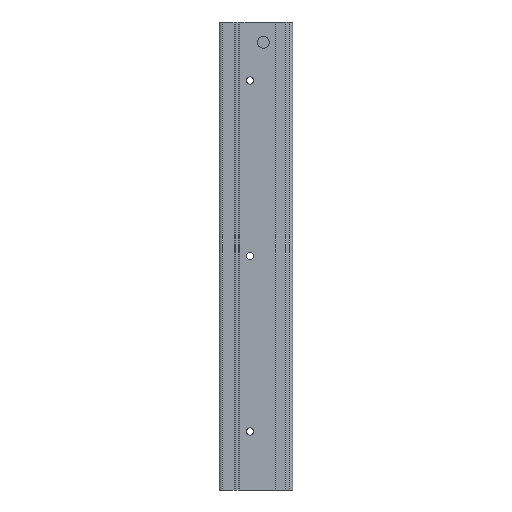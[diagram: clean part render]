
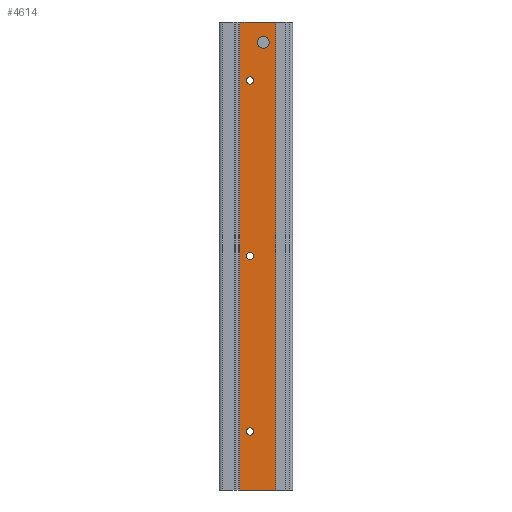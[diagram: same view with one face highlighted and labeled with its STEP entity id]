
A CAD part, left-side view. The second image highlights one B-rep face of the part: STEP entity #4614.
In plain terms, the highlighted planar face has unit normal (-1, 0, 0).
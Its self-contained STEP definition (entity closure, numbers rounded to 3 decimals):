
#471 = LINE ( 'NONE', #13522, #35056 ) ;
#664 = CARTESIAN_POINT ( 'NONE',  ( -35., 14.5, -1.25 ) ) ;
#701 = ORIENTED_EDGE ( 'NONE', *, *, #22824, .F. ) ;
#1092 = EDGE_CURVE ( 'NONE', #20267, #35663, #31165, .T. ) ;
#1887 = DIRECTION ( 'NONE',  ( 0., 0., 1. ) ) ;
#2100 = EDGE_LOOP ( 'NONE', ( #701, #10483, #7663, #7106 ) ) ;
#2418 = FACE_BOUND ( 'NONE', #10354, .T. ) ;
#2432 = DIRECTION ( 'NONE',  ( -1., 0., 0. ) ) ;
#2931 = CARTESIAN_POINT ( 'NONE',  ( -35., 0., -80. ) ) ;
#3332 = EDGE_CURVE ( 'NONE', #33931, #19867, #20458, .T. ) ;
#3597 = ORIENTED_EDGE ( 'NONE', *, *, #1092, .F. ) ;
#3890 = PLANE ( 'NONE',  #33195 ) ;
#4566 = DIRECTION ( 'NONE',  ( -1., 0., 0. ) ) ;
#4614 = ADVANCED_FACE ( 'NONE', ( #17292, #24775, #2418, #31347, #23889 ), #3890, .T. ) ;
#5747 = VERTEX_POINT ( 'NONE', #20240 ) ;
#6825 = DIRECTION ( 'NONE',  ( -1., 0., 0. ) ) ;
#7106 = ORIENTED_EDGE ( 'NONE', *, *, #34855, .T. ) ;
#7113 = ORIENTED_EDGE ( 'NONE', *, *, #20938, .F. ) ;
#7443 = CARTESIAN_POINT ( 'NONE',  ( -35., 14.5, -60. ) ) ;
#7524 = CARTESIAN_POINT ( 'NONE',  ( -35., 10., 73. ) ) ;
#7652 = AXIS2_PLACEMENT_3D ( 'NONE', #11168, #30787, #13965 ) ;
#7663 = ORIENTED_EDGE ( 'NONE', *, *, #23623, .T. ) ;
#8358 = CARTESIAN_POINT ( 'NONE',  ( -35., 18., 80. ) ) ;
#8442 = EDGE_LOOP ( 'NONE', ( #13089, #19303 ) ) ;
#9086 = CARTESIAN_POINT ( 'NONE',  ( -35., 10., 75. ) ) ;
#9262 = VECTOR ( 'NONE', #22512, 1000. ) ;
#9628 = CARTESIAN_POINT ( 'NONE',  ( -35., 14.5, 61.25 ) ) ;
#10267 = DIRECTION ( 'NONE',  ( 0., 0., 1. ) ) ;
#10341 = DIRECTION ( 'NONE',  ( 0., 0., 1. ) ) ;
#10354 = EDGE_LOOP ( 'NONE', ( #17208, #3597 ) ) ;
#10483 = ORIENTED_EDGE ( 'NONE', *, *, #33543, .F. ) ;
#10722 = AXIS2_PLACEMENT_3D ( 'NONE', #7524, #27154, #10341 ) ;
#10758 = EDGE_CURVE ( 'NONE', #26982, #5747, #11031, .T. ) ;
#10933 = VERTEX_POINT ( 'NONE', #31581 ) ;
#11031 = CIRCLE ( 'NONE', #10722, 2. ) ;
#11168 = CARTESIAN_POINT ( 'NONE',  ( -35., 14.5, 0. ) ) ;
#11194 = CARTESIAN_POINT ( 'NONE',  ( -35., 18., -80. ) ) ;
#11271 = LINE ( 'NONE', #8358, #16971 ) ;
#12311 = VERTEX_POINT ( 'NONE', #33074 ) ;
#12721 = CARTESIAN_POINT ( 'NONE',  ( -35., 5.8, 80. ) ) ;
#12958 = AXIS2_PLACEMENT_3D ( 'NONE', #19170, #2432, #22010 ) ;
#13089 = ORIENTED_EDGE ( 'NONE', *, *, #18325, .F. ) ;
#13522 = CARTESIAN_POINT ( 'NONE',  ( -35., 0., 80. ) ) ;
#13629 = VERTEX_POINT ( 'NONE', #28564 ) ;
#13965 = DIRECTION ( 'NONE',  ( 0., 0., 1. ) ) ;
#14221 = DIRECTION ( 'NONE',  ( -1., 0., 0. ) ) ;
#14417 = VECTOR ( 'NONE', #18348, 1000. ) ;
#15547 = AXIS2_PLACEMENT_3D ( 'NONE', #21309, #4566, #24143 ) ;
#15729 = ORIENTED_EDGE ( 'NONE', *, *, #3332, .F. ) ;
#16186 = CARTESIAN_POINT ( 'NONE',  ( -35., 10., 73. ) ) ;
#16289 = VERTEX_POINT ( 'NONE', #30480 ) ;
#16701 = LINE ( 'NONE', #2931, #9262 ) ;
#16971 = VECTOR ( 'NONE', #19592, 1000. ) ;
#17208 = ORIENTED_EDGE ( 'NONE', *, *, #29270, .F. ) ;
#17292 = FACE_BOUND ( 'NONE', #8442, .T. ) ;
#18325 = EDGE_CURVE ( 'NONE', #5747, #26982, #30169, .T. ) ;
#18348 = DIRECTION ( 'NONE',  ( 0., 0., -1. ) ) ;
#18619 = DIRECTION ( 'NONE',  ( -1., 0., 0. ) ) ;
#18987 = DIRECTION ( 'NONE',  ( 0., 0., 1. ) ) ;
#19170 = CARTESIAN_POINT ( 'NONE',  ( -35., 14.5, 60. ) ) ;
#19303 = ORIENTED_EDGE ( 'NONE', *, *, #10758, .F. ) ;
#19592 = DIRECTION ( 'NONE',  ( 0., 0., -1. ) ) ;
#19867 = VERTEX_POINT ( 'NONE', #32130 ) ;
#20240 = CARTESIAN_POINT ( 'NONE',  ( -35., 10., 71. ) ) ;
#20267 = VERTEX_POINT ( 'NONE', #664 ) ;
#20458 = CIRCLE ( 'NONE', #12958, 1.25 ) ;
#20938 = EDGE_CURVE ( 'NONE', #10933, #16289, #22557, .T. ) ;
#21175 = ORIENTED_EDGE ( 'NONE', *, *, #26648, .F. ) ;
#21309 = CARTESIAN_POINT ( 'NONE',  ( -35., 14.5, 60. ) ) ;
#22010 = DIRECTION ( 'NONE',  ( 0., 0., 1. ) ) ;
#22111 = CIRCLE ( 'NONE', #29789, 1.25 ) ;
#22512 = DIRECTION ( 'NONE',  ( 0., 1., 0. ) ) ;
#22557 = CIRCLE ( 'NONE', #27820, 1.25 ) ;
#22824 = EDGE_CURVE ( 'NONE', #13629, #34250, #16701, .T. ) ;
#23403 = EDGE_LOOP ( 'NONE', ( #21175, #7113 ) ) ;
#23591 = CARTESIAN_POINT ( 'NONE',  ( -35., 0., 80. ) ) ;
#23623 = EDGE_CURVE ( 'NONE', #12311, #32699, #471, .T. ) ;
#23889 = FACE_OUTER_BOUND ( 'NONE', #2100, .T. ) ;
#24143 = DIRECTION ( 'NONE',  ( 0., 0., 1. ) ) ;
#24469 = AXIS2_PLACEMENT_3D ( 'NONE', #35431, #18619, #1887 ) ;
#24775 = FACE_BOUND ( 'NONE', #23403, .T. ) ;
#25426 = CIRCLE ( 'NONE', #15547, 1.25 ) ;
#25990 = EDGE_LOOP ( 'NONE', ( #15729, #26753 ) ) ;
#26438 = DIRECTION ( 'NONE',  ( 0., 0., 1. ) ) ;
#26648 = EDGE_CURVE ( 'NONE', #16289, #10933, #34483, .T. ) ;
#26753 = ORIENTED_EDGE ( 'NONE', *, *, #31946, .F. ) ;
#26982 = VERTEX_POINT ( 'NONE', #9086 ) ;
#27073 = DIRECTION ( 'NONE',  ( -1., 0., 0. ) ) ;
#27154 = DIRECTION ( 'NONE',  ( -1., 0., 0. ) ) ;
#27820 = AXIS2_PLACEMENT_3D ( 'NONE', #7443, #27073, #10267 ) ;
#28303 = CARTESIAN_POINT ( 'NONE',  ( -35., 18., 80. ) ) ;
#28564 = CARTESIAN_POINT ( 'NONE',  ( -35., 5.8, -80. ) ) ;
#29270 = EDGE_CURVE ( 'NONE', #35663, #20267, #22111, .T. ) ;
#29789 = AXIS2_PLACEMENT_3D ( 'NONE', #31050, #14221, #33831 ) ;
#30169 = CIRCLE ( 'NONE', #33089, 2. ) ;
#30335 = DIRECTION ( 'NONE',  ( 0., 1., 0. ) ) ;
#30480 = CARTESIAN_POINT ( 'NONE',  ( -35., 14.5, -58.75 ) ) ;
#30787 = DIRECTION ( 'NONE',  ( -1., 0., 0. ) ) ;
#31050 = CARTESIAN_POINT ( 'NONE',  ( -35., 14.5, 0. ) ) ;
#31131 = LINE ( 'NONE', #12721, #14417 ) ;
#31165 = CIRCLE ( 'NONE', #7652, 1.25 ) ;
#31347 = FACE_BOUND ( 'NONE', #25990, .T. ) ;
#31581 = CARTESIAN_POINT ( 'NONE',  ( -35., 14.5, -61.25 ) ) ;
#31946 = EDGE_CURVE ( 'NONE', #19867, #33931, #25426, .T. ) ;
#32130 = CARTESIAN_POINT ( 'NONE',  ( -35., 14.5, 58.75 ) ) ;
#32699 = VERTEX_POINT ( 'NONE', #28303 ) ;
#33074 = CARTESIAN_POINT ( 'NONE',  ( -35., 5.8, 80. ) ) ;
#33089 = AXIS2_PLACEMENT_3D ( 'NONE', #16186, #35798, #18987 ) ;
#33195 = AXIS2_PLACEMENT_3D ( 'NONE', #23591, #6825, #26438 ) ;
#33543 = EDGE_CURVE ( 'NONE', #12311, #13629, #31131, .T. ) ;
#33831 = DIRECTION ( 'NONE',  ( 0., 0., 1. ) ) ;
#33931 = VERTEX_POINT ( 'NONE', #9628 ) ;
#34250 = VERTEX_POINT ( 'NONE', #11194 ) ;
#34483 = CIRCLE ( 'NONE', #24469, 1.25 ) ;
#34720 = CARTESIAN_POINT ( 'NONE',  ( -35., 14.5, 1.25 ) ) ;
#34855 = EDGE_CURVE ( 'NONE', #32699, #34250, #11271, .T. ) ;
#35056 = VECTOR ( 'NONE', #30335, 1000. ) ;
#35431 = CARTESIAN_POINT ( 'NONE',  ( -35., 14.5, -60. ) ) ;
#35663 = VERTEX_POINT ( 'NONE', #34720 ) ;
#35798 = DIRECTION ( 'NONE',  ( -1., 0., 0. ) ) ;
